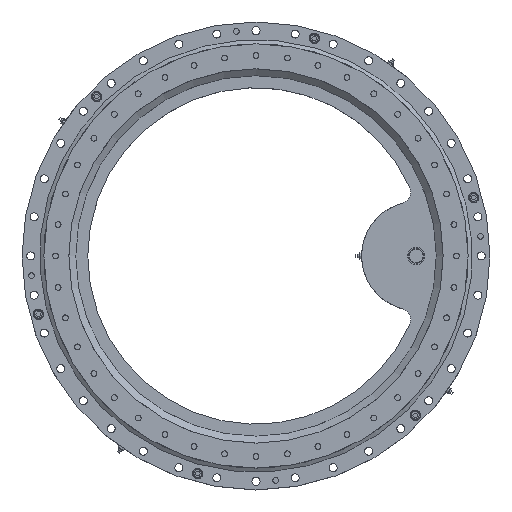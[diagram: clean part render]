
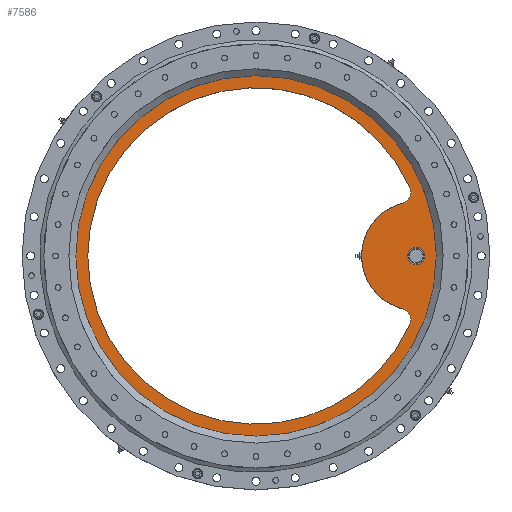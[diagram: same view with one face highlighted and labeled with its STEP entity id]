
A CAD part, top view. The second image highlights one B-rep face of the part: STEP entity #7586.
In plain terms, the highlighted planar face has unit normal (0, 0, 1).
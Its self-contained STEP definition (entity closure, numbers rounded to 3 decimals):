
#62=PLANE('',#8171);
#317=FACE_BOUND('',#1060,.T.);
#318=FACE_BOUND('',#1061,.T.);
#600=FACE_OUTER_BOUND('',#1059,.T.);
#1059=EDGE_LOOP('',(#5489));
#1060=EDGE_LOOP('',(#5490));
#1061=EDGE_LOOP('',(#5491,#5492,#5493,#5494));
#2616=CIRCLE('',#8005,293.);
#2620=CIRCLE('',#8010,95.);
#2728=CIRCLE('',#8165,20.);
#2731=CIRCLE('',#8170,20.);
#2732=CIRCLE('',#8172,315.);
#2733=CIRCLE('',#8173,13.);
#3205=VERTEX_POINT('',#11378);
#3206=VERTEX_POINT('',#11379);
#3213=VERTEX_POINT('',#11394);
#3214=VERTEX_POINT('',#11396);
#3323=VERTEX_POINT('',#11891);
#3324=VERTEX_POINT('',#11893);
#4029=EDGE_CURVE('',#3205,#3206,#2616,.T.);
#4037=EDGE_CURVE('',#3213,#3214,#2620,.T.);
#4192=EDGE_CURVE('',#3205,#3214,#2728,.T.);
#4195=EDGE_CURVE('',#3213,#3206,#2731,.T.);
#4196=EDGE_CURVE('',#3323,#3323,#2732,.T.);
#4197=EDGE_CURVE('',#3324,#3324,#2733,.T.);
#5489=ORIENTED_EDGE('',*,*,#4196,.T.);
#5490=ORIENTED_EDGE('',*,*,#4197,.T.);
#5491=ORIENTED_EDGE('',*,*,#4029,.F.);
#5492=ORIENTED_EDGE('',*,*,#4192,.T.);
#5493=ORIENTED_EDGE('',*,*,#4037,.F.);
#5494=ORIENTED_EDGE('',*,*,#4195,.T.);
#7586=ADVANCED_FACE('',(#600,#317,#318),#62,.T.);
#8005=AXIS2_PLACEMENT_3D('',#11380,#8956,#8957);
#8010=AXIS2_PLACEMENT_3D('',#11397,#8970,#8971);
#8165=AXIS2_PLACEMENT_3D('',#11884,#9325,#9326);
#8170=AXIS2_PLACEMENT_3D('',#11889,#9335,#9336);
#8171=AXIS2_PLACEMENT_3D('',#11890,#9337,#9338);
#8172=AXIS2_PLACEMENT_3D('',#11892,#9339,#9340);
#8173=AXIS2_PLACEMENT_3D('',#11894,#9341,#9342);
#8956=DIRECTION('center_axis',(0.,0.,1.));
#8957=DIRECTION('ref_axis',(1.,0.,0.));
#8970=DIRECTION('center_axis',(0.,0.,-1.));
#8971=DIRECTION('ref_axis',(1.,0.,0.));
#9325=DIRECTION('center_axis',(0.,0.,-1.));
#9326=DIRECTION('ref_axis',(1.,0.,0.));
#9335=DIRECTION('center_axis',(0.,0.,-1.));
#9336=DIRECTION('ref_axis',(1.,0.,0.));
#9337=DIRECTION('center_axis',(0.,0.,1.));
#9338=DIRECTION('ref_axis',(1.,0.,0.));
#9339=DIRECTION('center_axis',(0.,0.,1.));
#9340=DIRECTION('ref_axis',(1.,0.,0.));
#9341=DIRECTION('center_axis',(0.,0.,-1.));
#9342=DIRECTION('ref_axis',(-1.,0.,0.));
#11378=CARTESIAN_POINT('',(293.065,120.933,469.578));
#11379=CARTESIAN_POINT('',(293.065,-117.579,469.578));
#11380=CARTESIAN_POINT('Origin',(25.433,1.677,469.578));
#11394=CARTESIAN_POINT('',(279.951,-90.114,469.578));
#11396=CARTESIAN_POINT('',(279.951,93.468,469.578));
#11397=CARTESIAN_POINT('Origin',(304.433,1.677,469.578));
#11884=CARTESIAN_POINT('Origin',(274.797,112.793,469.578));
#11889=CARTESIAN_POINT('Origin',(274.797,-109.439,469.578));
#11890=CARTESIAN_POINT('Origin',(25.433,1.677,469.578));
#11891=CARTESIAN_POINT('',(-289.567,1.677,469.578));
#11892=CARTESIAN_POINT('Origin',(25.433,1.677,469.578));
#11893=CARTESIAN_POINT('',(317.433,1.677,469.578));
#11894=CARTESIAN_POINT('Origin',(304.433,1.677,469.578));
